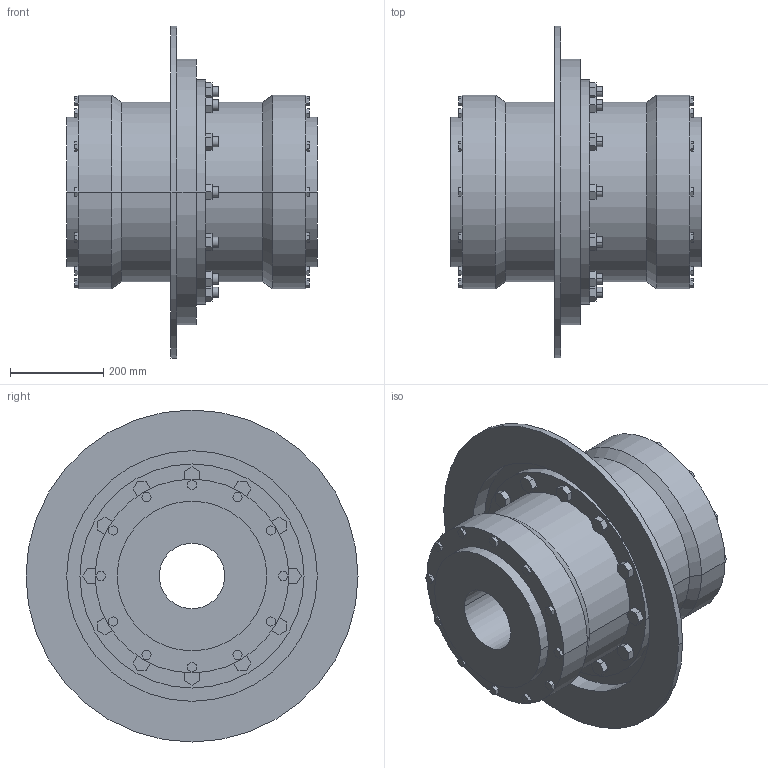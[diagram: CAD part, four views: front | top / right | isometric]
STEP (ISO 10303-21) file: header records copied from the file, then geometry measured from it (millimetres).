
FILE_DESCRIPTION((''),'2;1');
FILE_NAME('A19101900-0_ASM','2019-05-23T',('AB_Roschiwal'),('RENK AG'),'PRO/ENGINEER BY PARAMETRIC TECHNOLOGY CORPORATION, 2015440','PRO/ENGINEER BY PARAMETRIC TECHNOLOGY CORPORATION, 2015440','');
FILE_SCHEMA(('CONFIG_CONTROL_DESIGN'));
Length unit declared in the file: millimetre
Products named in the file (4): SBKT200_GEHAEUSE; SBKT200_NABE; SBKT200_BREMSSCHEIBE; A19101900-0_ASM
Assembly tree (4 placements, depth 2):
  A19101900-0_ASM
    SBKT200_GEHAEUSE
    SBKT200_NABE  x2
    SBKT200_BREMSSCHEIBE
Bounding box: 536 x 711 x 711 mm (x, y, z)
Volume: 56435816.7 mm3; surface area: 3423960.8 mm2
Topology: 4 solids, 4 shells, 470 faces, 1156 edges, 768 vertices
Faces by surface type: plane 370, cylinder 96, cone 4
Entity records: 13604 total; most frequent: CARTESIAN_POINT 2350, ORIENTED_EDGE 2264, DIRECTION 2240, EDGE_CURVE 1132, VECTOR 956, LINE 956, VERTEX_POINT 752, AXIS2_PLACEMENT_3D 642
